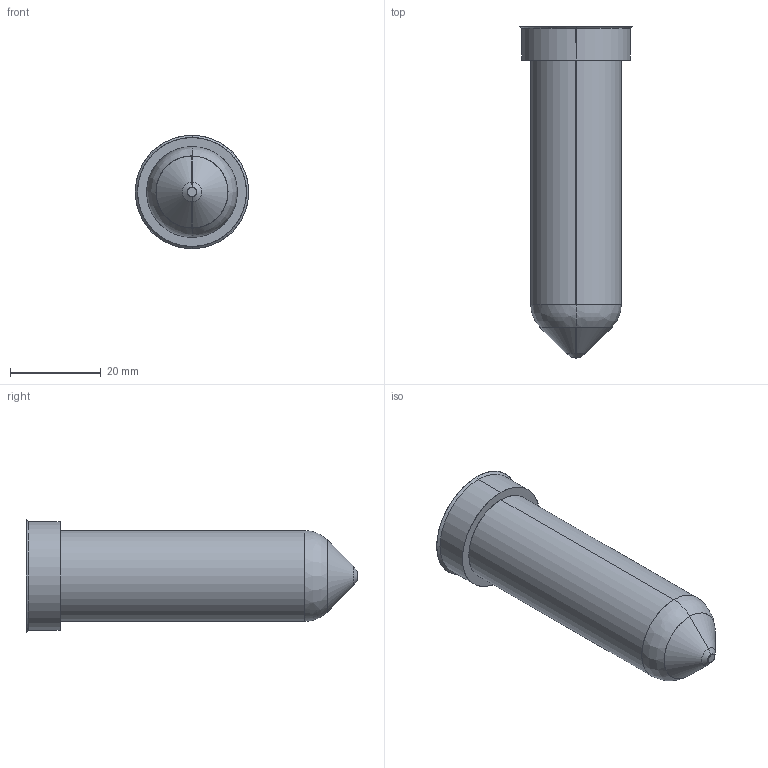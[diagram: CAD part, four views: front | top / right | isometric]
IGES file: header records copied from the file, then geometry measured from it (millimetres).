
Start section: SolidWorks IGES file using analytic representation for surfaces
Global section: file name: C:\Documents and Settings\ws-20\Desktop\TEM\Sede UGGS2540-M-0 C-73 L-105 Ød-2.0.IGS; native system: SolidWorks 2012; preprocessor: SolidWorks 2012; author: ws-20; date: 120516.094633; units: millimetre
Bounding box: 25 x 73.17 x 25 mm (x, y, z)
Surface area: 5198.7 mm2 (no closed solid volume)
Topology: 0 solids, 0 shells, 17 faces, 184 edges, 184 vertices
Faces by surface type: revolution 12, bspline 5
